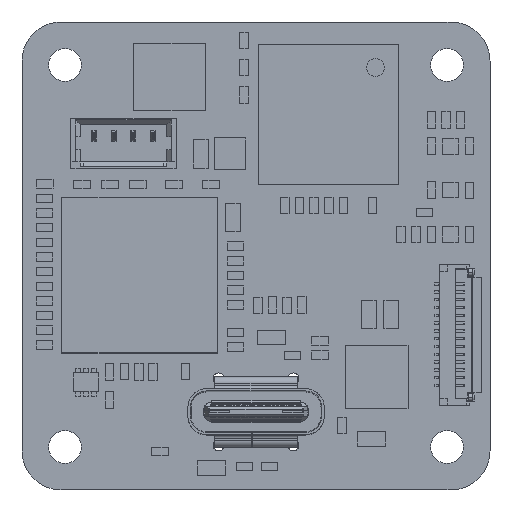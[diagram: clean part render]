
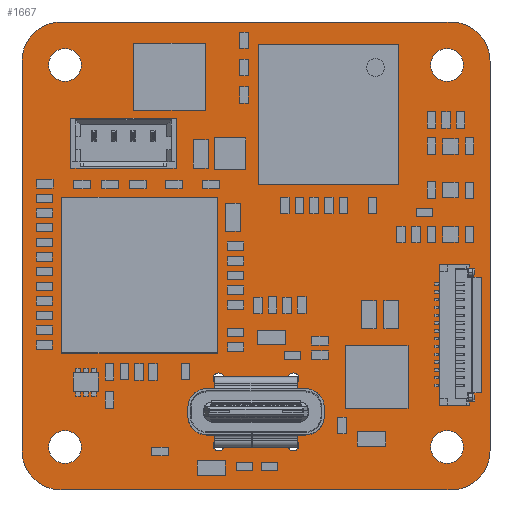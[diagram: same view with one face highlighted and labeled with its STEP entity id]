
A CAD part, top view. The second image highlights one B-rep face of the part: STEP entity #1667.
In plain terms, the highlighted planar face has unit normal (0, 0, 1).
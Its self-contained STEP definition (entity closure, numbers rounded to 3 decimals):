
#800 = VERTEX_POINT('',#801);
#801 = CARTESIAN_POINT('',(0.,2.5,1.002));
#807 = EDGE_CURVE('',#800,#808,#810,.T.);
#808 = VERTEX_POINT('',#809);
#809 = CARTESIAN_POINT('',(-0.006,27.5,1.002));
#810 = LINE('',#811,#812);
#811 = CARTESIAN_POINT('',(0.,2.5,1.002));
#812 = VECTOR('',#813,1.);
#813 = DIRECTION('',(0.,1.,0.));
#838 = EDGE_CURVE('',#808,#839,#841,.T.);
#839 = VERTEX_POINT('',#840);
#840 = CARTESIAN_POINT('',(2.5,30.,1.002));
#841 = CIRCLE('',#842,2.496);
#842 = AXIS2_PLACEMENT_3D('',#843,#844,#845);
#843 = CARTESIAN_POINT('',(2.49,27.504,1.002));
#844 = DIRECTION('',(0.,0.,-1.));
#845 = DIRECTION('',(-1.,-0.002,-0.));
#871 = EDGE_CURVE('',#839,#872,#874,.T.);
#872 = VERTEX_POINT('',#873);
#873 = CARTESIAN_POINT('',(27.5,30.,1.002));
#874 = LINE('',#875,#876);
#875 = CARTESIAN_POINT('',(2.5,30.,1.002));
#876 = VECTOR('',#877,1.);
#877 = DIRECTION('',(1.,0.,0.));
#902 = EDGE_CURVE('',#872,#903,#905,.T.);
#903 = VERTEX_POINT('',#904);
#904 = CARTESIAN_POINT('',(30.,27.5,1.002));
#905 = CIRCLE('',#906,2.499);
#906 = AXIS2_PLACEMENT_3D('',#907,#908,#909);
#907 = CARTESIAN_POINT('',(27.501,27.501,1.002));
#908 = DIRECTION('',(0.,0.,-1.));
#909 = DIRECTION('',(0.,1.,0.));
#935 = EDGE_CURVE('',#903,#936,#938,.T.);
#936 = VERTEX_POINT('',#937);
#937 = CARTESIAN_POINT('',(30.,2.5,1.002));
#938 = LINE('',#939,#940);
#939 = CARTESIAN_POINT('',(30.,27.5,1.002));
#940 = VECTOR('',#941,1.);
#941 = DIRECTION('',(0.,-1.,0.));
#966 = EDGE_CURVE('',#936,#967,#969,.T.);
#967 = VERTEX_POINT('',#968);
#968 = CARTESIAN_POINT('',(27.5,0.,1.002));
#969 = CIRCLE('',#970,2.499);
#970 = AXIS2_PLACEMENT_3D('',#971,#972,#973);
#971 = CARTESIAN_POINT('',(27.501,2.499,1.002));
#972 = DIRECTION('',(0.,0.,-1.));
#973 = DIRECTION('',(1.,0.,0.));
#999 = EDGE_CURVE('',#967,#1000,#1002,.T.);
#1000 = VERTEX_POINT('',#1001);
#1001 = CARTESIAN_POINT('',(2.5,0.,1.002));
#1002 = LINE('',#1003,#1004);
#1003 = CARTESIAN_POINT('',(27.5,0.,1.002));
#1004 = VECTOR('',#1005,1.);
#1005 = DIRECTION('',(-1.,0.,0.));
#1030 = EDGE_CURVE('',#1000,#800,#1031,.T.);
#1031 = CIRCLE('',#1032,2.499);
#1032 = AXIS2_PLACEMENT_3D('',#1033,#1034,#1035);
#1033 = CARTESIAN_POINT('',(2.499,2.499,1.002));
#1034 = DIRECTION('',(0.,0.,-1.));
#1035 = DIRECTION('',(0.,-1.,0.));
#1056 = VERTEX_POINT('',#1057);
#1057 = CARTESIAN_POINT('',(3.8,2.75,1.002));
#1063 = EDGE_CURVE('',#1056,#1056,#1064,.T.);
#1064 = CIRCLE('',#1065,1.05);
#1065 = AXIS2_PLACEMENT_3D('',#1066,#1067,#1068);
#1066 = CARTESIAN_POINT('',(2.75,2.75,1.002));
#1067 = DIRECTION('',(0.,0.,1.));
#1068 = DIRECTION('',(1.,0.,-0.));
#1089 = VERTEX_POINT('',#1090);
#1090 = CARTESIAN_POINT('',(11.58,5.,1.002));
#1096 = EDGE_CURVE('',#1089,#1089,#1097,.T.);
#1097 = CIRCLE('',#1098,0.33);
#1098 = AXIS2_PLACEMENT_3D('',#1099,#1100,#1101);
#1099 = CARTESIAN_POINT('',(11.25,5.,1.002));
#1100 = DIRECTION('',(0.,0.,1.));
#1101 = DIRECTION('',(1.,0.,-0.));
#1122 = VERTEX_POINT('',#1123);
#1123 = CARTESIAN_POINT('',(4.875,22.7,1.002));
#1129 = EDGE_CURVE('',#1122,#1122,#1130,.T.);
#1130 = CIRCLE('',#1131,0.25);
#1131 = AXIS2_PLACEMENT_3D('',#1132,#1133,#1134);
#1132 = CARTESIAN_POINT('',(4.625,22.7,1.002));
#1133 = DIRECTION('',(0.,0.,1.));
#1134 = DIRECTION('',(1.,0.,-0.));
#1155 = VERTEX_POINT('',#1156);
#1156 = CARTESIAN_POINT('',(6.125,22.7,1.002));
#1162 = EDGE_CURVE('',#1155,#1155,#1163,.T.);
#1163 = CIRCLE('',#1164,0.25);
#1164 = AXIS2_PLACEMENT_3D('',#1165,#1166,#1167);
#1165 = CARTESIAN_POINT('',(5.875,22.7,1.002));
#1166 = DIRECTION('',(0.,0.,1.));
#1167 = DIRECTION('',(1.,0.,-0.));
#1188 = VERTEX_POINT('',#1189);
#1189 = CARTESIAN_POINT('',(3.8,27.25,1.002));
#1195 = EDGE_CURVE('',#1188,#1188,#1196,.T.);
#1196 = CIRCLE('',#1197,1.05);
#1197 = AXIS2_PLACEMENT_3D('',#1198,#1199,#1200);
#1198 = CARTESIAN_POINT('',(2.75,27.25,1.002));
#1199 = DIRECTION('',(0.,0.,1.));
#1200 = DIRECTION('',(1.,0.,-0.));
#1221 = VERTEX_POINT('',#1222);
#1222 = CARTESIAN_POINT('',(8.625,22.7,1.002));
#1228 = EDGE_CURVE('',#1221,#1221,#1229,.T.);
#1229 = CIRCLE('',#1230,0.25);
#1230 = AXIS2_PLACEMENT_3D('',#1231,#1232,#1233);
#1231 = CARTESIAN_POINT('',(8.375,22.7,1.002));
#1232 = DIRECTION('',(0.,0.,1.));
#1233 = DIRECTION('',(1.,0.,-0.));
#1254 = VERTEX_POINT('',#1255);
#1255 = CARTESIAN_POINT('',(7.375,22.7,1.002));
#1261 = EDGE_CURVE('',#1254,#1254,#1262,.T.);
#1262 = CIRCLE('',#1263,0.25);
#1263 = AXIS2_PLACEMENT_3D('',#1264,#1265,#1266);
#1264 = CARTESIAN_POINT('',(7.125,22.7,1.002));
#1265 = DIRECTION('',(0.,0.,1.));
#1266 = DIRECTION('',(1.,0.,-0.));
#1287 = VERTEX_POINT('',#1288);
#1288 = CARTESIAN_POINT('',(12.95,2.85,1.002));
#1294 = EDGE_CURVE('',#1287,#1287,#1295,.T.);
#1295 = CIRCLE('',#1296,0.35);
#1296 = AXIS2_PLACEMENT_3D('',#1297,#1298,#1299);
#1297 = CARTESIAN_POINT('',(12.6,2.85,1.002));
#1298 = DIRECTION('',(0.,0.,1.));
#1299 = DIRECTION('',(1.,0.,-0.));
#1320 = VERTEX_POINT('',#1321);
#1321 = CARTESIAN_POINT('',(17.75,2.85,1.002));
#1327 = EDGE_CURVE('',#1320,#1320,#1328,.T.);
#1328 = CIRCLE('',#1329,0.35);
#1329 = AXIS2_PLACEMENT_3D('',#1330,#1331,#1332);
#1330 = CARTESIAN_POINT('',(17.4,2.85,1.002));
#1331 = DIRECTION('',(0.,0.,1.));
#1332 = DIRECTION('',(1.,0.,-0.));
#1353 = VERTEX_POINT('',#1354);
#1354 = CARTESIAN_POINT('',(28.3,2.75,1.002));
#1360 = EDGE_CURVE('',#1353,#1353,#1361,.T.);
#1361 = CIRCLE('',#1362,1.05);
#1362 = AXIS2_PLACEMENT_3D('',#1363,#1364,#1365);
#1363 = CARTESIAN_POINT('',(27.25,2.75,1.002));
#1364 = DIRECTION('',(0.,0.,1.));
#1365 = DIRECTION('',(1.,0.,-0.));
#1386 = VERTEX_POINT('',#1387);
#1387 = CARTESIAN_POINT('',(17.75,7.15,1.002));
#1393 = EDGE_CURVE('',#1386,#1386,#1394,.T.);
#1394 = CIRCLE('',#1395,0.35);
#1395 = AXIS2_PLACEMENT_3D('',#1396,#1397,#1398);
#1396 = CARTESIAN_POINT('',(17.4,7.15,1.002));
#1397 = DIRECTION('',(0.,0.,1.));
#1398 = DIRECTION('',(1.,0.,-0.));
#1419 = VERTEX_POINT('',#1420);
#1420 = CARTESIAN_POINT('',(12.95,7.15,1.002));
#1426 = EDGE_CURVE('',#1419,#1419,#1427,.T.);
#1427 = CIRCLE('',#1428,0.35);
#1428 = AXIS2_PLACEMENT_3D('',#1429,#1430,#1431);
#1429 = CARTESIAN_POINT('',(12.6,7.15,1.002));
#1430 = DIRECTION('',(0.,0.,1.));
#1431 = DIRECTION('',(1.,0.,-0.));
#1452 = VERTEX_POINT('',#1453);
#1453 = CARTESIAN_POINT('',(18.96,5.29,1.002));
#1459 = EDGE_CURVE('',#1452,#1460,#1462,.T.);
#1460 = VERTEX_POINT('',#1461);
#1461 = CARTESIAN_POINT('',(18.54,5.29,1.002));
#1462 = LINE('',#1463,#1464);
#1463 = CARTESIAN_POINT('',(18.96,5.29,1.002));
#1464 = VECTOR('',#1465,1.);
#1465 = DIRECTION('',(-1.,0.,0.));
#1490 = EDGE_CURVE('',#1460,#1491,#1493,.T.);
#1491 = VERTEX_POINT('',#1492);
#1492 = CARTESIAN_POINT('',(18.54,4.71,1.002));
#1493 = CIRCLE('',#1494,0.29);
#1494 = AXIS2_PLACEMENT_3D('',#1495,#1496,#1497);
#1495 = CARTESIAN_POINT('',(18.54,5.,1.002));
#1496 = DIRECTION('',(0.,0.,1.));
#1497 = DIRECTION('',(0.,1.,-0.));
#1523 = EDGE_CURVE('',#1491,#1524,#1526,.T.);
#1524 = VERTEX_POINT('',#1525);
#1525 = CARTESIAN_POINT('',(18.96,4.71,1.002));
#1526 = LINE('',#1527,#1528);
#1527 = CARTESIAN_POINT('',(18.54,4.71,1.002));
#1528 = VECTOR('',#1529,1.);
#1529 = DIRECTION('',(1.,0.,0.));
#1554 = EDGE_CURVE('',#1524,#1452,#1555,.T.);
#1555 = CIRCLE('',#1556,0.29);
#1556 = AXIS2_PLACEMENT_3D('',#1557,#1558,#1559);
#1557 = CARTESIAN_POINT('',(18.96,5.,1.002));
#1558 = DIRECTION('',(0.,0.,1.));
#1559 = DIRECTION('',(0.,-1.,0.));
#1580 = VERTEX_POINT('',#1581);
#1581 = CARTESIAN_POINT('',(28.3,27.25,1.002));
#1587 = EDGE_CURVE('',#1580,#1580,#1588,.T.);
#1588 = CIRCLE('',#1589,1.05);
#1589 = AXIS2_PLACEMENT_3D('',#1590,#1591,#1592);
#1590 = CARTESIAN_POINT('',(27.25,27.25,1.002));
#1591 = DIRECTION('',(0.,0.,1.));
#1592 = DIRECTION('',(1.,0.,-0.));
#1667 = ADVANCED_FACE('',(#1668,#1678,#1681,#1684,#1687,#1690,#1693,
    #1696,#1699,#1702,#1705,#1708,#1711,#1714,#1720),#1723,.F.);
#1668 = FACE_BOUND('',#1669,.F.);
#1669 = EDGE_LOOP('',(#1670,#1671,#1672,#1673,#1674,#1675,#1676,#1677));
#1670 = ORIENTED_EDGE('',*,*,#807,.T.);
#1671 = ORIENTED_EDGE('',*,*,#838,.T.);
#1672 = ORIENTED_EDGE('',*,*,#871,.T.);
#1673 = ORIENTED_EDGE('',*,*,#902,.T.);
#1674 = ORIENTED_EDGE('',*,*,#935,.T.);
#1675 = ORIENTED_EDGE('',*,*,#966,.T.);
#1676 = ORIENTED_EDGE('',*,*,#999,.T.);
#1677 = ORIENTED_EDGE('',*,*,#1030,.T.);
#1678 = FACE_BOUND('',#1679,.F.);
#1679 = EDGE_LOOP('',(#1680));
#1680 = ORIENTED_EDGE('',*,*,#1063,.T.);
#1681 = FACE_BOUND('',#1682,.F.);
#1682 = EDGE_LOOP('',(#1683));
#1683 = ORIENTED_EDGE('',*,*,#1096,.T.);
#1684 = FACE_BOUND('',#1685,.F.);
#1685 = EDGE_LOOP('',(#1686));
#1686 = ORIENTED_EDGE('',*,*,#1129,.T.);
#1687 = FACE_BOUND('',#1688,.F.);
#1688 = EDGE_LOOP('',(#1689));
#1689 = ORIENTED_EDGE('',*,*,#1162,.T.);
#1690 = FACE_BOUND('',#1691,.F.);
#1691 = EDGE_LOOP('',(#1692));
#1692 = ORIENTED_EDGE('',*,*,#1195,.T.);
#1693 = FACE_BOUND('',#1694,.F.);
#1694 = EDGE_LOOP('',(#1695));
#1695 = ORIENTED_EDGE('',*,*,#1228,.T.);
#1696 = FACE_BOUND('',#1697,.F.);
#1697 = EDGE_LOOP('',(#1698));
#1698 = ORIENTED_EDGE('',*,*,#1261,.T.);
#1699 = FACE_BOUND('',#1700,.F.);
#1700 = EDGE_LOOP('',(#1701));
#1701 = ORIENTED_EDGE('',*,*,#1294,.T.);
#1702 = FACE_BOUND('',#1703,.F.);
#1703 = EDGE_LOOP('',(#1704));
#1704 = ORIENTED_EDGE('',*,*,#1327,.T.);
#1705 = FACE_BOUND('',#1706,.F.);
#1706 = EDGE_LOOP('',(#1707));
#1707 = ORIENTED_EDGE('',*,*,#1360,.T.);
#1708 = FACE_BOUND('',#1709,.F.);
#1709 = EDGE_LOOP('',(#1710));
#1710 = ORIENTED_EDGE('',*,*,#1393,.T.);
#1711 = FACE_BOUND('',#1712,.F.);
#1712 = EDGE_LOOP('',(#1713));
#1713 = ORIENTED_EDGE('',*,*,#1426,.T.);
#1714 = FACE_BOUND('',#1715,.F.);
#1715 = EDGE_LOOP('',(#1716,#1717,#1718,#1719));
#1716 = ORIENTED_EDGE('',*,*,#1459,.T.);
#1717 = ORIENTED_EDGE('',*,*,#1490,.T.);
#1718 = ORIENTED_EDGE('',*,*,#1523,.T.);
#1719 = ORIENTED_EDGE('',*,*,#1554,.T.);
#1720 = FACE_BOUND('',#1721,.F.);
#1721 = EDGE_LOOP('',(#1722));
#1722 = ORIENTED_EDGE('',*,*,#1587,.T.);
#1723 = PLANE('',#1724);
#1724 = AXIS2_PLACEMENT_3D('',#1725,#1726,#1727);
#1725 = CARTESIAN_POINT('',(14.998,15.001,1.002)
  );
#1726 = DIRECTION('',(-0.,-0.,-1.));
#1727 = DIRECTION('',(-1.,0.,0.));
